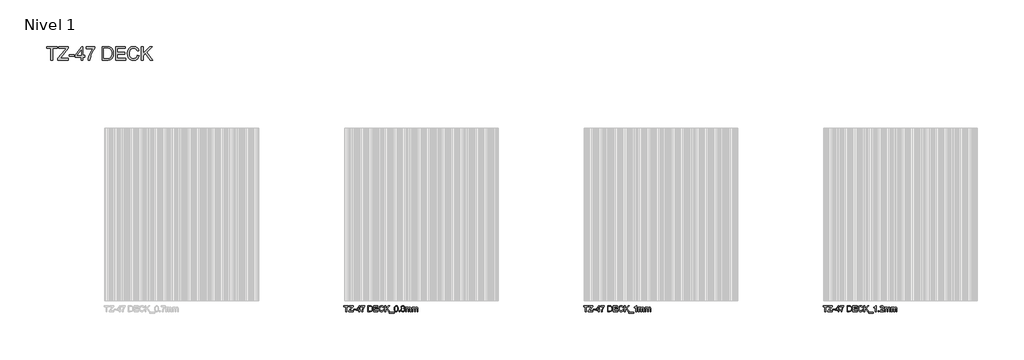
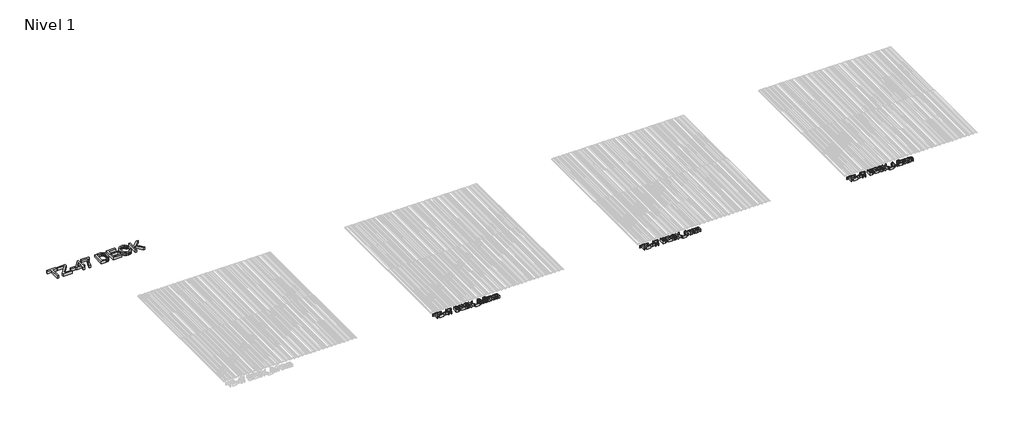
# One storey, part 4 of 4: 4 proxies.
"""IFC4 building model written with IfcOpenShell, lengths in millimetres."""

from ifc_helpers import new_model, si_unit, origin, origin_with_axes, place, context, project, spatial, polyline, outline, extrude, element, save

model = new_model("IFC4")

# Units and contexts
model_context = context("Model", 3, world=origin())
ifc_project = project(units=[si_unit("LENGTHUNIT", "METRE", prefix="MILLI")], contexts=[model_context])

# Site, building, storey
site = spatial("IfcSite", under=ifc_project)
building = spatial("IfcBuilding", under=site)
storey = spatial("IfcBuildingStorey", under=building, Name="Nivel 1", Elevation=0.0)

# Proxies
placement = place(None, origin())
element("IfcBuildingElementProxy", 1, Name="Texto de modelo 1", ObjectType="Texto de modelo 1", at=placement, inside=storey, context=model_context, shape_type="SweptSolid", body=[
    extrude(outline(polyline([(395.0481544, -3789.0115797), (395.0481544, -3525.3137656), (296.1614741, -3525.3137656), (296.1614741, -3487.6426493), (531.605951, -3487.6426493), (531.605951, -3525.3137656), (432.7192707, -3525.3137656), (432.7192707, -3789.0115797), (395.0481544, -3789.0115797)])), origin_with_axes(), (0.0, 0.0, 1.0), 150.0),
    extrude(outline(polyline([(550.4415092, -3789.0115797), (550.4415092, -3749.9425118), (704.5840652, -3561.2190483), (733.867472, -3525.3137656), (569.2770674, -3525.3137656), (569.2770674, -3487.6426493), (781.1770966, -3487.6426493), (781.1770966, -3525.3137656), (612.4664136, -3731.8427177), (596.5739114, -3751.3404634), (785.8859861, -3751.3404634), (785.8859861, -3789.0115797), (550.4415092, -3789.0115797)])), origin_with_axes(), (0.0, 0.0, 1.0), 150.0),
    extrude(outline(polyline([(804.7215443, -3699.5426785), (804.7215443, -3661.8715622), (922.4437827, -3661.8715622), (922.4437827, -3699.5426785), (804.7215443, -3699.5426785)])), origin_with_axes(), (0.0, 0.0, 1.0), 150.0),
    extrude(outline(polyline([(1077.8371375, -3789.0115797), (1077.8371375, -3718.3782367), (941.2793409, -3718.3782367), (941.2793409, -3680.7071204), (1087.2549166, -3492.3515388), (1115.5082538, -3492.3515388), (1115.5082538, -3680.7071204), (1153.1793701, -3680.7071204), (1153.1793701, -3718.3782367), (1115.5082538, -3718.3782367), (1115.5082538, -3789.0115797), (1077.8371375, -3789.0115797)]), holes=[polyline([(1077.8371375, -3680.7071204), (1077.8371375, -3564.3092571), (987.6324723, -3680.7071204), (1077.8371375, -3680.7071204)])]), origin_with_axes(), (0.0, 0.0, 1.0), 150.0),
    extrude(outline(polyline([(1186.1415969, -3530.0226551), (1186.1415969, -3492.3515388), (1383.9149575, -3492.3515388), (1383.9149575, -3522.812168), (1355.7259996, -3558.4875245), (1327.8129532, -3603.8565716), (1303.1924507, -3654.7806367), (1284.8811244, -3707.1210476), (1275.9048037, -3746.282086), (1270.9016086, -3789.0115797), (1233.2304922, -3789.0115797), (1237.3047853, -3750.1816351), (1248.2032895, -3704.0308388), (1265.631699, -3655.1117305), (1289.2957083, -3607.9768499), (1316.9236462, -3565.3669178), (1346.2438412, -3530.0226551), (1186.1415969, -3530.0226551)])), origin_with_axes(), (0.0, 0.0, 1.0), 150.0),
    extrude(outline(polyline([(1548.7260913, -3789.0115797), (1548.7260913, -3487.6426493), (1652.6895432, -3487.6426493), (1706.4738908, -3491.9836568), (1730.4965851, -3500.3529722), (1750.7668831, -3513.5415417), (1771.6073981, -3536.4973782), (1786.4514366, -3565.0450211), (1795.3357868, -3598.6326472), (1798.2972368, -3636.7084337), (1796.29228, -3669.0544582), (1790.2774093, -3697.5193275), (1781.1171477, -3721.753554), (1769.6760176, -3741.4076496), (1756.5058422, -3756.9230727), (1742.1584444, -3768.7412818), (1725.686528, -3777.5060703), (1706.142797, -3783.8612318), (1657.6927383, -3789.0115797), (1548.7260913, -3789.0115797)]), holes=[polyline([(1586.3972076, -3751.3404634), (1653.0574251, -3751.3404634), (1680.6301807, -3749.9793), (1701.5442721, -3745.8958099), (1717.3264097, -3739.3291163), (1729.5033037, -3730.5183425), (1742.5907057, -3714.2119731), (1752.422352, -3693.1047436), (1758.5751784, -3667.1046836), (1760.6261205, -3636.1198225), (1756.6070097, -3595.0641919), (1744.5496773, -3564.7507155), (1726.7349917, -3543.9285945), (1705.4438213, -3531.3470303), (1683.7755717, -3526.8220818), (1652.0273556, -3525.3137656), (1586.3972076, -3525.3137656), (1586.3972076, -3751.3404634)])]), origin_with_axes(), (0.0, 0.0, 1.0), 150.0),
    extrude(outline(polyline([(1850.0950218, -3789.0115797), (1850.0950218, -3487.6426493), (2066.7039405, -3487.6426493), (2066.7039405, -3525.3137656), (1887.7661381, -3525.3137656), (1887.7661381, -3614.7826668), (2057.2861614, -3614.7826668), (2057.2861614, -3652.4537831), (1887.7661381, -3652.4537831), (1887.7661381, -3751.3404634), (2071.4128301, -3751.3404634), (2071.4128301, -3789.0115797), (1850.0950218, -3789.0115797)])), origin_with_axes(), (0.0, 0.0, 1.0), 150.0),
    extrude(outline(polyline([(2339.8195337, -3681.8843427), (2377.49065, -3691.5964274), (2370.0364411, -3715.0236127), (2360.1082258, -3735.4939465), (2347.706004, -3753.0074287), (2332.8297758, -3767.5640594), (2315.8152336, -3779.0074887), (2296.9980695, -3787.1813668), (2276.3782837, -3792.0856937), (2253.9558761, -3793.7204693), (2210.2606921, -3788.7724564), (2175.5602229, -3773.9284179), (2148.9623546, -3749.7033885), (2129.5749735, -3716.6124031), (2117.7383703, -3677.7088821), (2113.7928359, -3636.0462461), (2118.2534051, -3592.1027418), (2131.6351127, -3554.155714), (2153.2389828, -3523.4099763), (2182.3660398, -3501.0703421), (2216.9101592, -3487.4679053), (2254.7652165, -3482.9337597), (2296.0691675, -3488.8014776), (2314.0379037, -3496.1361248), (2330.2178137, -3506.404631), (2344.342183, -3519.3356832), (2356.1442973, -3534.6579683), (2372.7817605, -3572.4762374), (2335.1106442, -3581.4525581), (2322.0508334, -3553.9809701), (2304.2085566, -3535.1362149), (2281.3630847, -3524.2377108), (2253.2936885, -3520.6048761), (2220.938467, -3524.6331839), (2194.3589928, -3536.7181074), (2174.1898625, -3555.5904538), (2161.0656723, -3579.9810301), (2153.8643822, -3607.5537856), (2151.4639522, -3635.9726697), (2154.3058406, -3670.7743065), (2162.8315059, -3700.8670537), (2177.3628447, -3725.1012801), (2198.2217538, -3742.3273545), (2223.2285324, -3752.6188534), (2250.2034797, -3756.049353), (2281.6481933, -3751.3772516), (2307.8505884, -3737.3609476), (2327.6334427, -3714.1475937), (2339.8195337, -3681.8843427)])), origin_with_axes(), (0.0, 0.0, 1.0), 150.0),
    extrude(outline(polyline([(2429.288435, -3789.0115797), (2429.288435, -3487.6426493), (2466.9595513, -3487.6426493), (2466.9595513, -3635.1633294), (2621.4699892, -3487.6426493), (2674.150691, -3487.6426493), (2544.4354995, -3611.5453053), (2678.8595805, -3789.0115797), (2632.8007547, -3789.0115797), (2517.7272666, -3637.0027393), (2466.9595513, -3685.4160099), (2466.9595513, -3789.0115797), (2429.288435, -3789.0115797)])), origin_with_axes(), (0.0, 0.0, 1.0), 150.0),
    extrude(outline(polyline([(2669.4418014, -3873.7715914), (2669.4418014, -3836.1004751), (2914.3040574, -3836.1004751), (2914.3040574, -3873.7715914), (2669.4418014, -3873.7715914)])), origin_with_axes(), (0.0, 0.0, 1.0), 150.0),
    extrude(outline(polyline([(2923.7218365, -3640.7551357), (2926.4901485, -3592.5166091), (2934.7950845, -3554.0453494), (2948.5538712, -3524.7527455), (2967.6837349, -3504.0501863), (2992.3226315, -3491.7445335), (3022.6085168, -3487.6426493), (3045.8218707, -3490.0706705), (3066.6072034, -3497.354734), (3083.9896277, -3509.2097313), (3096.9942562, -3525.3505538), (3106.8167055, -3545.6392458), (3114.652592, -3569.9378516), (3119.7845458, -3600.793954), (3121.4951971, -3640.7551357), (3118.7544762, -3688.7177508), (3110.5323136, -3727.0970399), (3096.8563005, -3756.417235), (3077.7540279, -3777.2025677), (3053.0599489, -3789.5909939), (3022.6085168, -3793.7204693), (3001.8599723, -3791.9270445), (2983.4658725, -3786.5467704), (2967.4262175, -3777.5796467), (2953.7410073, -3765.0256736), (2940.6076201, -3742.3319531), (2931.2266292, -3714.0556232), (2925.5980347, -3680.1966841), (2923.7218365, -3640.7551357)]), holes=[polyline([(2961.3929528, -3640.6815593), (2965.8075367, -3699.9381517), (2971.3257667, -3720.2061503), (2979.0512886, -3734.2339507), (2998.7697635, -3750.5955024), (3022.6085168, -3756.049353), (3046.4472701, -3750.5771083), (3066.165745, -3734.1603743), (3073.8912669, -3720.1095813), (3079.4094968, -3699.8461812), (3083.8240808, -3640.6815593), (3079.5566496, -3582.7585391), (3074.2223607, -3562.5572191), (3066.7543562, -3548.1960257), (3047.0726695, -3531.0343306), (3022.1670584, -3525.3137656), (2998.5858225, -3530.3537489), (2979.6398998, -3545.4736989), (2971.6568605, -3561.1086837), (2965.9546895, -3582.188322), (2961.3929528, -3640.6815593)])]), origin_with_axes(), (0.0, 0.0, 1.0), 150.0),
    extrude(outline(polyline([(3173.292982, -3789.0115797), (3173.292982, -3751.3404634), (3210.9640983, -3751.3404634), (3210.9640983, -3789.0115797), (3173.292982, -3789.0115797)])), origin_with_axes(), (0.0, 0.0, 1.0), 150.0),
    extrude(outline(polyline([(3327.067656, -3623.0232235), (3306.8985256, -3613.0904096), (3292.7442658, -3599.6259286), (3284.3841475, -3582.9056919), (3281.5974414, -3563.2056111), (3283.1149546, -3547.8419393), (3287.6674943, -3533.7566574), (3295.2550605, -3520.9497654), (3305.8776531, -3509.4212634), (3319.0248359, -3499.8931197), (3334.1861726, -3493.0873028), (3370.5513078, -3487.6426493), (3407.1371722, -3493.2160615), (3422.4640559, -3500.1828268), (3435.8135738, -3509.9362982), (3446.6293044, -3521.6901279), (3454.3548263, -3534.6579683), (3458.9901395, -3548.8398192), (3460.5352438, -3564.2356807), (3457.7853259, -3583.3011651), (3449.5355722, -3599.7362932), (3435.6940121, -3613.1180008), (3416.1686752, -3623.0232235), (3439.354438, -3634.9701913), (3456.2310245, -3652.5641477), (3466.5225233, -3674.9589642), (3469.9530229, -3701.3085121), (3468.2515687, -3720.098085), (3463.147206, -3737.3241594), (3454.6399349, -3752.9867354), (3442.7297553, -3767.0858128), (3428.0420666, -3778.738475), (3411.2022683, -3787.0618052), (3392.2103603, -3792.0558032), (3371.0663426, -3793.7204693), (3349.9223249, -3792.0489055), (3330.9304169, -3787.034214), (3314.0906186, -3778.6763949), (3299.40293, -3766.9754482), (3287.4927504, -3752.7775025), (3278.9854792, -3736.9286863), (3273.8811165, -3719.4289996), (3272.1796623, -3700.2784425), (3275.7481177, -3672.9080221), (3286.4534837, -3650.393644), (3303.7439375, -3633.5078604), (3327.067656, -3623.0232235)]), holes=[polyline([(3309.8507786, -3698.9540673), (3316.1415607, -3727.3177691), (3324.851167, -3739.4854661), (3338.3984214, -3748.5445603), (3354.6220174, -3754.1731548), (3371.3606482, -3756.049353), (3397.0020233, -3752.1038186), (3416.2422516, -3740.2672154), (3428.2719929, -3722.3421652), (3432.2819066, -3700.1312897), (3428.1432342, -3677.5433352), (3415.7272168, -3659.2228118), (3396.0455301, -3647.082706), (3370.1098494, -3643.036004), (3344.8271593, -3647.0275237), (3325.780069, -3659.0020826), (3313.8331012, -3676.9731181), (3309.8507786, -3698.9540673)]), polyline([(3319.2685577, -3564.3092571), (3322.6070868, -3580.7535823), (3332.6226741, -3593.8869695), (3349.0210141, -3602.4954082), (3371.507801, -3605.3648877), (3393.4703561, -3602.5138023), (3409.6203757, -3593.9605459), (3419.5531896, -3581.2686171), (3422.8641275, -3566.0015143), (3419.442825, -3550.1549973), (3409.1789173, -3537.0492012), (3392.8081685, -3528.2476245), (3371.0663426, -3525.3137656), (3349.186561, -3528.1832452), (3332.8434033, -3536.7916838), (3322.6622691, -3549.4100363), (3319.2685577, -3564.3092571)])]), origin_with_axes(), (0.0, 0.0, 1.0), 150.0),
    extrude(outline(polyline([(3512.3330288, -3789.0115797), (3512.3330288, -3567.6937714), (3550.0041451, -3567.6937714), (3550.0041451, -3604.114089), (3561.3349105, -3587.3846552), (3575.9030375, -3574.2788591), (3593.2118854, -3565.8083762), (3612.7648135, -3562.9848819), (3633.7156931, -3565.8635585), (3650.5095062, -3574.4995883), (3663.0542822, -3588.3227543), (3671.2580507, -3606.7628393), (3684.9892462, -3587.6099829), (3700.6518221, -3573.9293713), (3718.2457785, -3565.7210042), (3737.7711154, -3562.9848819), (3766.088832, -3567.5374216), (3787.0305146, -3581.1950407), (3799.9707637, -3604.3256211), (3804.2841801, -3637.2970449), (3804.2841801, -3789.0115797), (3766.6130638, -3789.0115797), (3766.6130638, -3653.4838527), (3763.1181849, -3622.0299421), (3758.2069602, -3613.3571241), (3750.4630442, -3606.5421101), (3740.5026392, -3602.1275262), (3728.9419475, -3600.6559982), (3708.5336938, -3604.4267887), (3691.8962306, -3615.73916), (3680.8321796, -3635.3656644), (3677.1441626, -3664.0788542), (3677.1441626, -3789.0115797), (3639.4730463, -3789.0115797), (3639.4730463, -3649.289998), (3637.2933455, -3627.9896304), (3630.754243, -3612.796104), (3619.2487336, -3603.6910247), (3602.169812, -3600.6559982), (3587.6568673, -3602.6793492), (3574.2843568, -3608.7494021), (3563.2478969, -3618.7190042), (3555.7431042, -3632.4410026), (3551.4388849, -3651.4788958), (3550.0041451, -3677.3961824), (3550.0041451, -3789.0115797), (3512.3330288, -3789.0115797)])), origin_with_axes(), (0.0, 0.0, 1.0), 150.0),
    extrude(outline(polyline([(3860.7908546, -3789.0115797), (3860.7908546, -3567.6937714), (3898.4619709, -3567.6937714), (3898.4619709, -3604.114089), (3909.7927364, -3587.3846552), (3924.3608634, -3574.2788591), (3941.6697112, -3565.8083762), (3961.2226393, -3562.9848819), (3982.1735189, -3565.8635585), (3998.967332, -3574.4995883), (4011.512108, -3588.3227543), (4019.7158765, -3606.7628393), (4033.447072, -3587.6099829), (4049.1096479, -3573.9293713), (4066.7036044, -3565.7210042), (4086.2289412, -3562.9848819), (4114.5466578, -3567.5374216), (4135.4883404, -3581.1950407), (4148.4285896, -3604.3256211), (4152.742006, -3637.2970449), (4152.742006, -3789.0115797), (4115.0708897, -3789.0115797), (4115.0708897, -3653.4838527), (4111.5760107, -3622.0299421), (4106.6647861, -3613.3571241), (4098.9208701, -3606.5421101), (4088.9604651, -3602.1275262), (4077.3997734, -3600.6559982), (4056.9915197, -3604.4267887), (4040.3540564, -3615.73916), (4029.2900054, -3635.3656644), (4025.6019884, -3664.0788542), (4025.6019884, -3789.0115797), (3987.9308721, -3789.0115797), (3987.9308721, -3649.289998), (3985.7511713, -3627.9896304), (3979.2120688, -3612.796104), (3967.7065594, -3603.6910247), (3950.6276378, -3600.6559982), (3936.1146931, -3602.6793492), (3922.7421826, -3608.7494021), (3911.7057227, -3618.7190042), (3904.20093, -3632.4410026), (3899.8967107, -3651.4788958), (3898.4619709, -3677.3961824), (3898.4619709, -3789.0115797), (3860.7908546, -3789.0115797)])), origin_with_axes(), (0.0, 0.0, 1.0), 150.0),
])
element("IfcBuildingElementProxy", 2, Name="Texto de modelo 1", ObjectType="Texto de modelo 1", at=placement, inside=storey, context=model_context, shape_type="SweptSolid", body=[
    extrude(outline(polyline([(12895.0481544, -3789.0115797), (12895.0481544, -3525.3137656), (12796.1614741, -3525.3137656), (12796.1614741, -3487.6426493), (13031.605951, -3487.6426493), (13031.605951, -3525.3137656), (12932.7192707, -3525.3137656), (12932.7192707, -3789.0115797), (12895.0481544, -3789.0115797)])), origin_with_axes(), (0.0, 0.0, 1.0), 150.0),
    extrude(outline(polyline([(13050.4415092, -3789.0115797), (13050.4415092, -3749.9425118), (13204.5840652, -3561.2190483), (13233.867472, -3525.3137656), (13069.2770674, -3525.3137656), (13069.2770674, -3487.6426493), (13281.1770966, -3487.6426493), (13281.1770966, -3525.3137656), (13112.4664136, -3731.8427177), (13096.5739114, -3751.3404634), (13285.8859861, -3751.3404634), (13285.8859861, -3789.0115797), (13050.4415092, -3789.0115797)])), origin_with_axes(), (0.0, 0.0, 1.0), 150.0),
    extrude(outline(polyline([(13304.7215443, -3699.5426785), (13304.7215443, -3661.8715622), (13422.4437827, -3661.8715622), (13422.4437827, -3699.5426785), (13304.7215443, -3699.5426785)])), origin_with_axes(), (0.0, 0.0, 1.0), 150.0),
    extrude(outline(polyline([(13577.8371375, -3789.0115797), (13577.8371375, -3718.3782367), (13441.2793409, -3718.3782367), (13441.2793409, -3680.7071204), (13587.2549166, -3492.3515388), (13615.5082538, -3492.3515388), (13615.5082538, -3680.7071204), (13653.1793701, -3680.7071204), (13653.1793701, -3718.3782367), (13615.5082538, -3718.3782367), (13615.5082538, -3789.0115797), (13577.8371375, -3789.0115797)]), holes=[polyline([(13577.8371375, -3680.7071204), (13577.8371375, -3564.3092571), (13487.6324723, -3680.7071204), (13577.8371375, -3680.7071204)])]), origin_with_axes(), (0.0, 0.0, 1.0), 150.0),
    extrude(outline(polyline([(13686.1415969, -3530.0226551), (13686.1415969, -3492.3515388), (13883.9149575, -3492.3515388), (13883.9149575, -3522.812168), (13855.7259996, -3558.4875245), (13827.8129532, -3603.8565716), (13803.1924507, -3654.7806367), (13784.8811244, -3707.1210476), (13775.9048037, -3746.282086), (13770.9016086, -3789.0115797), (13733.2304922, -3789.0115797), (13737.3047853, -3750.1816351), (13748.2032895, -3704.0308388), (13765.631699, -3655.1117305), (13789.2957083, -3607.9768499), (13816.9236462, -3565.3669178), (13846.2438412, -3530.0226551), (13686.1415969, -3530.0226551)])), origin_with_axes(), (0.0, 0.0, 1.0), 150.0),
    extrude(outline(polyline([(14048.7260913, -3789.0115797), (14048.7260913, -3487.6426493), (14152.6895432, -3487.6426493), (14206.4738908, -3491.9836568), (14230.4965851, -3500.3529722), (14250.7668831, -3513.5415417), (14271.6073981, -3536.4973782), (14286.4514366, -3565.0450211), (14295.3357868, -3598.6326472), (14298.2972368, -3636.7084337), (14296.29228, -3669.0544582), (14290.2774093, -3697.5193275), (14281.1171477, -3721.753554), (14269.6760176, -3741.4076496), (14256.5058422, -3756.9230727), (14242.1584444, -3768.7412818), (14225.686528, -3777.5060703), (14206.142797, -3783.8612318), (14157.6927383, -3789.0115797), (14048.7260913, -3789.0115797)]), holes=[polyline([(14086.3972076, -3751.3404634), (14153.0574251, -3751.3404634), (14180.6301807, -3749.9793), (14201.5442721, -3745.8958099), (14217.3264097, -3739.3291163), (14229.5033037, -3730.5183425), (14242.5907057, -3714.2119731), (14252.422352, -3693.1047436), (14258.5751784, -3667.1046836), (14260.6261205, -3636.1198225), (14256.6070097, -3595.0641919), (14244.5496773, -3564.7507155), (14226.7349917, -3543.9285945), (14205.4438213, -3531.3470303), (14183.7755717, -3526.8220818), (14152.0273556, -3525.3137656), (14086.3972076, -3525.3137656), (14086.3972076, -3751.3404634)])]), origin_with_axes(), (0.0, 0.0, 1.0), 150.0),
    extrude(outline(polyline([(14350.0950218, -3789.0115797), (14350.0950218, -3487.6426493), (14566.7039405, -3487.6426493), (14566.7039405, -3525.3137656), (14387.7661381, -3525.3137656), (14387.7661381, -3614.7826668), (14557.2861614, -3614.7826668), (14557.2861614, -3652.4537831), (14387.7661381, -3652.4537831), (14387.7661381, -3751.3404634), (14571.4128301, -3751.3404634), (14571.4128301, -3789.0115797), (14350.0950218, -3789.0115797)])), origin_with_axes(), (0.0, 0.0, 1.0), 150.0),
    extrude(outline(polyline([(14839.8195337, -3681.8843427), (14877.49065, -3691.5964274), (14870.0364411, -3715.0236127), (14860.1082258, -3735.4939465), (14847.706004, -3753.0074287), (14832.8297758, -3767.5640594), (14815.8152336, -3779.0074887), (14796.9980695, -3787.1813668), (14776.3782837, -3792.0856937), (14753.9558761, -3793.7204693), (14710.2606921, -3788.7724564), (14675.5602229, -3773.9284179), (14648.9623546, -3749.7033885), (14629.5749735, -3716.6124031), (14617.7383703, -3677.7088821), (14613.7928359, -3636.0462461), (14618.2534051, -3592.1027418), (14631.6351127, -3554.155714), (14653.2389828, -3523.4099763), (14682.3660398, -3501.0703421), (14716.9101592, -3487.4679053), (14754.7652165, -3482.9337597), (14796.0691675, -3488.8014776), (14814.0379037, -3496.1361248), (14830.2178137, -3506.404631), (14844.342183, -3519.3356832), (14856.1442973, -3534.6579683), (14872.7817605, -3572.4762374), (14835.1106442, -3581.4525581), (14822.0508334, -3553.9809701), (14804.2085566, -3535.1362149), (14781.3630847, -3524.2377108), (14753.2936885, -3520.6048761), (14720.938467, -3524.6331839), (14694.3589928, -3536.7181074), (14674.1898625, -3555.5904538), (14661.0656723, -3579.9810301), (14653.8643822, -3607.5537856), (14651.4639522, -3635.9726697), (14654.3058406, -3670.7743065), (14662.8315059, -3700.8670537), (14677.3628447, -3725.1012801), (14698.2217538, -3742.3273545), (14723.2285324, -3752.6188534), (14750.2034797, -3756.049353), (14781.6481933, -3751.3772516), (14807.8505884, -3737.3609476), (14827.6334427, -3714.1475937), (14839.8195337, -3681.8843427)])), origin_with_axes(), (0.0, 0.0, 1.0), 150.0),
    extrude(outline(polyline([(14929.288435, -3789.0115797), (14929.288435, -3487.6426493), (14966.9595513, -3487.6426493), (14966.9595513, -3635.1633294), (15121.4699892, -3487.6426493), (15174.150691, -3487.6426493), (15044.4354995, -3611.5453053), (15178.8595805, -3789.0115797), (15132.8007547, -3789.0115797), (15017.7272666, -3637.0027393), (14966.9595513, -3685.4160099), (14966.9595513, -3789.0115797), (14929.288435, -3789.0115797)])), origin_with_axes(), (0.0, 0.0, 1.0), 150.0),
    extrude(outline(polyline([(15169.4418014, -3873.7715914), (15169.4418014, -3836.1004751), (15414.3040574, -3836.1004751), (15414.3040574, -3873.7715914), (15169.4418014, -3873.7715914)])), origin_with_axes(), (0.0, 0.0, 1.0), 150.0),
    extrude(outline(polyline([(15564.9885226, -3789.0115797), (15527.3174063, -3789.0115797), (15527.3174063, -3554.155714), (15491.6328528, -3579.5763599), (15451.9751737, -3598.595859), (15451.9751737, -3562.9848819), (15481.5620832, -3546.8900446), (15507.1942612, -3527.7417868), (15527.4001798, -3507.3795183), (15540.708311, -3487.6426493), (15564.9885226, -3487.6426493), (15564.9885226, -3789.0115797)])), origin_with_axes(), (0.0, 0.0, 1.0), 150.0),
    extrude(outline(polyline([(15663.8752029, -3789.0115797), (15663.8752029, -3567.6937714), (15701.5463192, -3567.6937714), (15701.5463192, -3604.114089), (15712.8770847, -3587.3846552), (15727.4452117, -3574.2788591), (15744.7540596, -3565.8083762), (15764.3069876, -3562.9848819), (15785.2578672, -3565.8635585), (15802.0516803, -3574.4995883), (15814.5964564, -3588.3227543), (15822.8002249, -3606.7628393), (15836.5314203, -3587.609983), (15852.1939963, -3573.9293713), (15869.7879527, -3565.7210042), (15889.3132896, -3562.9848819), (15917.6310062, -3567.5374216), (15938.5726887, -3581.1950407), (15951.5129379, -3604.3256211), (15955.8263543, -3637.2970449), (15955.8263543, -3789.0115797), (15918.155238, -3789.0115797), (15918.155238, -3653.4838527), (15914.660359, -3622.0299421), (15909.7491344, -3613.3571241), (15902.0052184, -3606.5421101), (15892.0448134, -3602.1275262), (15880.4841217, -3600.6559982), (15860.075868, -3604.4267887), (15843.4384048, -3615.73916), (15832.3743538, -3635.3656644), (15828.6863368, -3664.0788542), (15828.6863368, -3789.0115797), (15791.0152205, -3789.0115797), (15791.0152205, -3649.289998), (15788.8355196, -3627.9896304), (15782.2964172, -3612.796104), (15770.7909078, -3603.6910247), (15753.7119862, -3600.6559982), (15739.1990414, -3602.6793492), (15725.8265309, -3608.7494021), (15714.7900711, -3618.7190042), (15707.2852784, -3632.4410026), (15702.981059, -3651.4788958), (15701.5463192, -3677.3961824), (15701.5463192, -3789.0115797), (15663.8752029, -3789.0115797)])), origin_with_axes(), (0.0, 0.0, 1.0), 150.0),
    extrude(outline(polyline([(16012.3330288, -3789.0115797), (16012.3330288, -3567.6937714), (16050.0041451, -3567.6937714), (16050.0041451, -3604.114089), (16061.3349105, -3587.3846552), (16075.9030375, -3574.2788591), (16093.2118854, -3565.8083762), (16112.7648135, -3562.9848819), (16133.7156931, -3565.8635585), (16150.5095062, -3574.4995883), (16163.0542822, -3588.3227543), (16171.2580507, -3606.7628393), (16184.9892462, -3587.609983), (16200.6518221, -3573.9293713), (16218.2457785, -3565.7210042), (16237.7711154, -3562.9848819), (16266.088832, -3567.5374216), (16287.0305146, -3581.1950407), (16299.9707637, -3604.3256211), (16304.2841801, -3637.2970449), (16304.2841801, -3789.0115797), (16266.6130638, -3789.0115797), (16266.6130638, -3653.4838527), (16263.1181849, -3622.0299421), (16258.2069602, -3613.3571241), (16250.4630442, -3606.5421101), (16240.5026392, -3602.1275262), (16228.9419475, -3600.6559982), (16208.5336938, -3604.4267887), (16191.8962306, -3615.73916), (16180.8321796, -3635.3656644), (16177.1441626, -3664.0788542), (16177.1441626, -3789.0115797), (16139.4730463, -3789.0115797), (16139.4730463, -3649.289998), (16137.2933455, -3627.9896304), (16130.754243, -3612.796104), (16119.2487336, -3603.6910247), (16102.169812, -3600.6559982), (16087.6568673, -3602.6793492), (16074.2843568, -3608.7494021), (16063.2478969, -3618.7190042), (16055.7431042, -3632.4410026), (16051.4388849, -3651.4788958), (16050.0041451, -3677.3961824), (16050.0041451, -3789.0115797), (16012.3330288, -3789.0115797)])), origin_with_axes(), (0.0, 0.0, 1.0), 150.0),
])
element("IfcBuildingElementProxy", 3, Name="Texto de modelo 1", ObjectType="Texto de modelo 1", at=placement, inside=storey, context=model_context, shape_type="SweptSolid", body=[
    extrude(outline(polyline([(25395.0481544, -3789.0115797), (25395.0481544, -3525.3137656), (25296.1614741, -3525.3137656), (25296.1614741, -3487.6426493), (25531.605951, -3487.6426493), (25531.605951, -3525.3137656), (25432.7192707, -3525.3137656), (25432.7192707, -3789.0115797), (25395.0481544, -3789.0115797)])), origin_with_axes(), (0.0, 0.0, 1.0), 150.0),
    extrude(outline(polyline([(25550.4415092, -3789.0115797), (25550.4415092, -3749.9425118), (25704.5840652, -3561.2190483), (25733.867472, -3525.3137656), (25569.2770674, -3525.3137656), (25569.2770674, -3487.6426493), (25781.1770966, -3487.6426493), (25781.1770966, -3525.3137656), (25612.4664136, -3731.8427177), (25596.5739114, -3751.3404634), (25785.8859861, -3751.3404634), (25785.8859861, -3789.0115797), (25550.4415092, -3789.0115797)])), origin_with_axes(), (0.0, 0.0, 1.0), 150.0),
    extrude(outline(polyline([(25804.7215443, -3699.5426785), (25804.7215443, -3661.8715622), (25922.4437827, -3661.8715622), (25922.4437827, -3699.5426785), (25804.7215443, -3699.5426785)])), origin_with_axes(), (0.0, 0.0, 1.0), 150.0),
    extrude(outline(polyline([(26077.8371375, -3789.0115797), (26077.8371375, -3718.3782367), (25941.2793409, -3718.3782367), (25941.2793409, -3680.7071204), (26087.2549166, -3492.3515388), (26115.5082538, -3492.3515388), (26115.5082538, -3680.7071204), (26153.1793701, -3680.7071204), (26153.1793701, -3718.3782367), (26115.5082538, -3718.3782367), (26115.5082538, -3789.0115797), (26077.8371375, -3789.0115797)]), holes=[polyline([(26077.8371375, -3680.7071204), (26077.8371375, -3564.3092571), (25987.6324723, -3680.7071204), (26077.8371375, -3680.7071204)])]), origin_with_axes(), (0.0, 0.0, 1.0), 150.0),
    extrude(outline(polyline([(26186.1415969, -3530.0226551), (26186.1415969, -3492.3515388), (26383.9149575, -3492.3515388), (26383.9149575, -3522.812168), (26355.7259996, -3558.4875245), (26327.8129532, -3603.8565716), (26303.1924507, -3654.7806367), (26284.8811244, -3707.1210476), (26275.9048037, -3746.282086), (26270.9016086, -3789.0115797), (26233.2304922, -3789.0115797), (26237.3047853, -3750.1816351), (26248.2032895, -3704.0308388), (26265.631699, -3655.1117305), (26289.2957083, -3607.9768499), (26316.9236462, -3565.3669178), (26346.2438412, -3530.0226551), (26186.1415969, -3530.0226551)])), origin_with_axes(), (0.0, 0.0, 1.0), 150.0),
    extrude(outline(polyline([(26548.7260913, -3789.0115797), (26548.7260913, -3487.6426493), (26652.6895432, -3487.6426493), (26706.4738908, -3491.9836568), (26730.4965851, -3500.3529722), (26750.7668831, -3513.5415417), (26771.6073981, -3536.4973782), (26786.4514366, -3565.0450211), (26795.3357868, -3598.6326472), (26798.2972368, -3636.7084337), (26796.29228, -3669.0544582), (26790.2774093, -3697.5193275), (26781.1171477, -3721.753554), (26769.6760176, -3741.4076496), (26756.5058422, -3756.9230727), (26742.1584444, -3768.7412818), (26725.686528, -3777.5060703), (26706.142797, -3783.8612318), (26657.6927383, -3789.0115797), (26548.7260913, -3789.0115797)]), holes=[polyline([(26586.3972076, -3751.3404634), (26653.0574251, -3751.3404634), (26680.6301807, -3749.9793), (26701.5442721, -3745.8958099), (26717.3264097, -3739.3291163), (26729.5033037, -3730.5183425), (26742.5907057, -3714.2119731), (26752.422352, -3693.1047436), (26758.5751784, -3667.1046836), (26760.6261205, -3636.1198225), (26756.6070097, -3595.0641919), (26744.5496773, -3564.7507155), (26726.7349917, -3543.9285945), (26705.4438213, -3531.3470303), (26683.7755717, -3526.8220818), (26652.0273556, -3525.3137656), (26586.3972076, -3525.3137656), (26586.3972076, -3751.3404634)])]), origin_with_axes(), (0.0, 0.0, 1.0), 150.0),
    extrude(outline(polyline([(26850.0950218, -3789.0115797), (26850.0950218, -3487.6426493), (27066.7039405, -3487.6426493), (27066.7039405, -3525.3137656), (26887.7661381, -3525.3137656), (26887.7661381, -3614.7826668), (27057.2861614, -3614.7826668), (27057.2861614, -3652.4537831), (26887.7661381, -3652.4537831), (26887.7661381, -3751.3404634), (27071.4128301, -3751.3404634), (27071.4128301, -3789.0115797), (26850.0950218, -3789.0115797)])), origin_with_axes(), (0.0, 0.0, 1.0), 150.0),
    extrude(outline(polyline([(27339.8195337, -3681.8843427), (27377.49065, -3691.5964274), (27370.0364411, -3715.0236127), (27360.1082258, -3735.4939465), (27347.706004, -3753.0074287), (27332.8297758, -3767.5640594), (27315.8152336, -3779.0074887), (27296.9980695, -3787.1813668), (27276.3782837, -3792.0856937), (27253.9558761, -3793.7204693), (27210.2606921, -3788.7724564), (27175.5602229, -3773.9284179), (27148.9623546, -3749.7033885), (27129.5749735, -3716.6124031), (27117.7383703, -3677.7088821), (27113.7928359, -3636.0462461), (27118.2534051, -3592.1027418), (27131.6351127, -3554.155714), (27153.2389828, -3523.4099763), (27182.3660398, -3501.0703421), (27216.9101592, -3487.4679053), (27254.7652165, -3482.9337597), (27296.0691675, -3488.8014776), (27314.0379037, -3496.1361248), (27330.2178137, -3506.404631), (27344.342183, -3519.3356832), (27356.1442973, -3534.6579683), (27372.7817605, -3572.4762374), (27335.1106442, -3581.4525581), (27322.0508334, -3553.9809701), (27304.2085566, -3535.1362149), (27281.3630847, -3524.2377108), (27253.2936885, -3520.6048761), (27220.938467, -3524.6331839), (27194.3589928, -3536.7181074), (27174.1898625, -3555.5904538), (27161.0656723, -3579.9810301), (27153.8643822, -3607.5537856), (27151.4639522, -3635.9726697), (27154.3058406, -3670.7743065), (27162.8315059, -3700.8670537), (27177.3628447, -3725.1012801), (27198.2217538, -3742.3273545), (27223.2285324, -3752.6188534), (27250.2034797, -3756.049353), (27281.6481933, -3751.3772516), (27307.8505884, -3737.3609476), (27327.6334427, -3714.1475937), (27339.8195337, -3681.8843427)])), origin_with_axes(), (0.0, 0.0, 1.0), 150.0),
    extrude(outline(polyline([(27429.288435, -3789.0115797), (27429.288435, -3487.6426493), (27466.9595513, -3487.6426493), (27466.9595513, -3635.1633294), (27621.4699892, -3487.6426493), (27674.150691, -3487.6426493), (27544.4354995, -3611.5453053), (27678.8595805, -3789.0115797), (27632.8007547, -3789.0115797), (27517.7272666, -3637.0027393), (27466.9595513, -3685.4160099), (27466.9595513, -3789.0115797), (27429.288435, -3789.0115797)])), origin_with_axes(), (0.0, 0.0, 1.0), 150.0),
    extrude(outline(polyline([(27669.4418014, -3873.7715914), (27669.4418014, -3836.1004751), (27914.3040574, -3836.1004751), (27914.3040574, -3873.7715914), (27669.4418014, -3873.7715914)])), origin_with_axes(), (0.0, 0.0, 1.0), 150.0),
    extrude(outline(polyline([(28064.9885226, -3789.0115797), (28027.3174063, -3789.0115797), (28027.3174063, -3554.155714), (27991.6328528, -3579.5763599), (27951.9751737, -3598.595859), (27951.9751737, -3562.9848819), (27981.5620832, -3546.8900446), (28007.1942612, -3527.7417868), (28027.4001798, -3507.3795183), (28040.708311, -3487.6426493), (28064.9885226, -3487.6426493), (28064.9885226, -3789.0115797)])), origin_with_axes(), (0.0, 0.0, 1.0), 150.0),
    extrude(outline(polyline([(28173.292982, -3789.0115797), (28173.292982, -3751.3404634), (28210.9640983, -3751.3404634), (28210.9640983, -3789.0115797), (28173.292982, -3789.0115797)])), origin_with_axes(), (0.0, 0.0, 1.0), 150.0),
    extrude(outline(polyline([(28465.2441334, -3751.3404634), (28465.2441334, -3789.0115797), (28267.4707728, -3789.0115797), (28271.5174747, -3763.0391109), (28280.8064951, -3742.7412218), (28294.3997348, -3723.050338), (28314.0630275, -3702.4397492), (28341.5622066, -3679.3827452), (28382.2131671, -3643.2751273), (28406.6037434, -3616.6220768), (28418.7990315, -3594.9906155), (28422.8641275, -3573.9477654), (28419.0289577, -3555.0846161), (28407.5234483, -3539.403646), (28389.8375214, -3528.8362357), (28367.4610991, -3525.3137656), (28343.9626366, -3528.7534622), (28325.7064926, -3539.0725522), (28313.9250717, -3555.4616951), (28309.8507786, -3577.1115505), (28272.1796623, -3572.402661), (28281.3123328, -3535.9639494), (28289.8586914, -3521.428012), (28301.0583989, -3509.347687), (28314.6539379, -3499.851733), (28330.387791, -3493.0689087), (28368.2704395, -3487.6426493), (28388.4602632, -3489.1509655), (28406.4289994, -3493.675914), (28422.1766481, -3501.2174949), (28435.7032092, -3511.7757082), (28446.5672243, -3524.5688046), (28454.3272352, -3538.8150348), (28458.9832417, -3554.514399), (28460.5352438, -3571.666897), (28458.8613808, -3589.6839177), (28453.8397915, -3607.3882387), (28444.9278502, -3625.3960624), (28431.5829308, -3644.323591), (28410.3101545, -3666.9207426), (28377.6146421, -3695.937435), (28334.2781431, -3732.1738115), (28317.2819949, -3751.3404634), (28465.2441334, -3751.3404634)])), origin_with_axes(), (0.0, 0.0, 1.0), 150.0),
    extrude(outline(polyline([(28512.3330288, -3789.0115797), (28512.3330288, -3567.6937714), (28550.0041451, -3567.6937714), (28550.0041451, -3604.114089), (28561.3349105, -3587.3846552), (28575.9030375, -3574.2788591), (28593.2118854, -3565.8083762), (28612.7648135, -3562.9848819), (28633.7156931, -3565.8635585), (28650.5095062, -3574.4995883), (28663.0542822, -3588.3227543), (28671.2580507, -3606.7628393), (28684.9892462, -3587.609983), (28700.6518221, -3573.9293713), (28718.2457785, -3565.7210042), (28737.7711154, -3562.9848819), (28766.088832, -3567.5374216), (28787.0305146, -3581.1950407), (28799.9707637, -3604.3256211), (28804.2841801, -3637.2970449), (28804.2841801, -3789.0115797), (28766.6130638, -3789.0115797), (28766.6130638, -3653.4838527), (28763.1181849, -3622.0299421), (28758.2069602, -3613.3571241), (28750.4630442, -3606.5421101), (28740.5026392, -3602.1275262), (28728.9419475, -3600.6559982), (28708.5336938, -3604.4267887), (28691.8962306, -3615.73916), (28680.8321796, -3635.3656644), (28677.1441626, -3664.0788542), (28677.1441626, -3789.0115797), (28639.4730463, -3789.0115797), (28639.4730463, -3649.289998), (28637.2933455, -3627.9896304), (28630.754243, -3612.796104), (28619.2487336, -3603.6910247), (28602.169812, -3600.6559982), (28587.6568673, -3602.6793492), (28574.2843568, -3608.7494021), (28563.2478969, -3618.7190042), (28555.7431042, -3632.4410026), (28551.4388849, -3651.4788958), (28550.0041451, -3677.3961824), (28550.0041451, -3789.0115797), (28512.3330288, -3789.0115797)])), origin_with_axes(), (0.0, 0.0, 1.0), 150.0),
    extrude(outline(polyline([(28860.7908546, -3789.0115797), (28860.7908546, -3567.6937714), (28898.4619709, -3567.6937714), (28898.4619709, -3604.114089), (28909.7927364, -3587.3846552), (28924.3608634, -3574.2788591), (28941.6697112, -3565.8083762), (28961.2226393, -3562.9848819), (28982.1735189, -3565.8635585), (28998.967332, -3574.4995883), (29011.512108, -3588.3227543), (29019.7158765, -3606.7628393), (29033.447072, -3587.609983), (29049.1096479, -3573.9293713), (29066.7036044, -3565.7210042), (29086.2289412, -3562.9848819), (29114.5466578, -3567.5374216), (29135.4883404, -3581.1950407), (29148.4285896, -3604.3256211), (29152.742006, -3637.2970449), (29152.742006, -3789.0115797), (29115.0708897, -3789.0115797), (29115.0708897, -3653.4838527), (29111.5760107, -3622.0299421), (29106.6647861, -3613.3571241), (29098.9208701, -3606.5421101), (29088.9604651, -3602.1275262), (29077.3997734, -3600.6559982), (29056.9915197, -3604.4267887), (29040.3540564, -3615.73916), (29029.2900054, -3635.3656644), (29025.6019884, -3664.0788542), (29025.6019884, -3789.0115797), (28987.9308721, -3789.0115797), (28987.9308721, -3649.289998), (28985.7511713, -3627.9896304), (28979.2120688, -3612.796104), (28967.7065594, -3603.6910247), (28950.6276378, -3600.6559982), (28936.1146931, -3602.6793492), (28922.7421826, -3608.7494021), (28911.7057227, -3618.7190042), (28904.20093, -3632.4410026), (28899.8967107, -3651.4788958), (28898.4619709, -3677.3961824), (28898.4619709, -3789.0115797), (28860.7908546, -3789.0115797)])), origin_with_axes(), (0.0, 0.0, 1.0), 150.0),
])
element("IfcBuildingElementProxy", 4, Name="Texto de modelo 2", ObjectType="Texto de modelo 2", at=placement, inside=storey, context=model_context, shape_type="SweptSolid", body=[
    extrude(outline(polyline([(-14990.4400847, 9329.0972393), (-14990.4400847, 9941.1292115), (-15219.9520743, 9941.1292115), (-15219.9520743, 10028.5623504), (-14673.4949563, 10028.5623504), (-14673.4949563, 9941.1292115), (-14903.0069458, 9941.1292115), (-14903.0069458, 9329.0972393), (-14990.4400847, 9329.0972393)])), origin_with_axes(), (0.0, 0.0, 1.0), 150.0),
    extrude(outline(polyline([(-14629.7783868, 9329.0972393), (-14629.7783868, 9419.7749673), (-14272.0197424, 9857.794501), (-14204.0541383, 9941.1292115), (-14586.0618174, 9941.1292115), (-14586.0618174, 10028.5623504), (-14094.2504112, 10028.5623504), (-14094.2504112, 9941.1292115), (-14485.8210898, 9461.7838583), (-14522.7069453, 9416.5303782), (-14083.3212688, 9416.5303782), (-14083.3212688, 9329.0972393), (-14629.7783868, 9329.0972393)])), origin_with_axes(), (0.0, 0.0, 1.0), 150.0),
    extrude(outline(polyline([(-14039.6046994, 9536.7509442), (-14039.6046994, 9624.184083), (-13766.3761404, 9624.184083), (-13766.3761404, 9536.7509442), (-14039.6046994, 9536.7509442)])), origin_with_axes(), (0.0, 0.0, 1.0), 150.0),
    extrude(outline(polyline([(-13405.7144425, 9329.0972393), (-13405.7144425, 9493.0343747), (-13722.6595709, 9493.0343747), (-13722.6595709, 9580.4675136), (-13383.8561578, 10017.633208), (-13318.2813036, 10017.633208), (-13318.2813036, 9580.4675136), (-13230.8481647, 9580.4675136), (-13230.8481647, 9493.0343747), (-13318.2813036, 9493.0343747), (-13318.2813036, 9329.0972393), (-13405.7144425, 9329.0972393)]), holes=[polyline([(-13405.7144425, 9580.4675136), (-13405.7144425, 9850.6222513), (-13615.0758258, 9580.4675136), (-13405.7144425, 9580.4675136)])]), origin_with_axes(), (0.0, 0.0, 1.0), 150.0),
    extrude(outline(polyline([(-13154.3441682, 9930.2000691), (-13154.3441682, 10017.633208), (-12695.3201891, 10017.633208), (-12695.3201891, 9946.9353184), (-12728.1129526, 9908.3471209), (-12760.7456214, 9864.1342574), (-12825.5306742, 9758.8345323), (-12855.9326879, 9700.1490935), (-12882.6738658, 9640.6418345), (-12905.754208, 9580.3127552), (-12925.1737143, 9519.1618557), (-12946.007392, 9428.2706678), (-12957.6196057, 9329.0972393), (-13045.0527446, 9329.0972393), (-13042.3044495, 9372.0346804), (-13035.5964749, 9419.2199718), (-13010.3014872, 9526.3341054), (-12991.885242, 9583.6213823), (-12969.8508529, 9639.8733792), (-12944.1983201, 9695.090096), (-12914.9276434, 9749.2715327), (-12850.8043159, 9848.1674635), (-12817.2697795, 9891.2916819), (-12782.753328, 9930.2000691), (-13154.3441682, 9930.2000691)])), origin_with_axes(), (0.0, 0.0, 1.0), 150.0),
    extrude(outline(polyline([(-12312.8002065, 9329.0972393), (-12312.8002065, 10028.5623504), (-12071.5052353, 10028.5623504), (-11999.3985109, 10026.0435246), (-11946.6739374, 10018.4870473), (-11917.707441, 10010.1727876), (-11890.9182346, 9999.0622044), (-11866.3063183, 9985.1552977), (-11843.8716921, 9968.4520674), (-11817.9469979, 9943.4345775), (-11795.5016987, 9915.1724984), (-11776.5357945, 9883.6658302), (-11761.0492851, 9848.9145728), (-11749.0208247, 9811.2389161), (-11740.4290673, 9770.9590496), (-11735.2740129, 9728.0749734), (-11733.5556614, 9682.5866875), (-11738.2090853, 9607.5128717), (-11752.169357, 9541.44706), (-11773.4299542, 9485.2003996), (-11799.9843548, 9439.5840379), (-11830.5517998, 9403.5733676), (-11863.8515305, 9376.1437818), (-11902.0821827, 9355.8010618), (-11947.4423927, 9341.0509888), (-12000.0175444, 9332.0856767), (-12059.8930215, 9329.0972393), (-12312.8002065, 9329.0972393)]), holes=[polyline([(-12225.3670676, 9416.5303782), (-12070.651396, 9416.5303782), (-12006.6561445, 9419.6895834), (-11958.1153833, 9429.1671991), (-11921.4856796, 9444.4082296), (-11893.2236005, 9464.8576796), (-11877.0913753, 9482.3880666), (-11862.8482693, 9502.7041042), (-11840.0294155, 9551.693131), (-11825.7489541, 9612.0382198), (-11820.9888003, 9683.9528303), (-11823.3208487, 9734.7135736), (-11830.316994, 9779.2412903), (-11841.9772362, 9817.5359805), (-11858.3015753, 9849.5976442), (-11877.9665605, 9876.1520448), (-11899.6487409, 9897.9249456), (-11923.3481165, 9914.9163466), (-11949.0646873, 9927.1262478), (-11999.3558189, 9937.6284706), (-12073.0421459, 9941.1292115), (-12225.3670676, 9941.1292115), (-12225.3670676, 9416.5303782)])]), origin_with_axes(), (0.0, 0.0, 1.0), 150.0),
    extrude(outline(polyline([(-11613.3350954, 9329.0972393), (-11613.3350954, 10028.5623504), (-11110.5945469, 10028.5623504), (-11110.5945469, 9941.1292115), (-11525.9019565, 9941.1292115), (-11525.9019565, 9733.4755066), (-11132.4528316, 9733.4755066), (-11132.4528316, 9646.0423678), (-11525.9019565, 9646.0423678), (-11525.9019565, 9416.5303782), (-11099.6654045, 9416.5303782), (-11099.6654045, 9329.0972393), (-11613.3350954, 9329.0972393)])), origin_with_axes(), (0.0, 0.0, 1.0), 150.0),
    extrude(outline(polyline([(-10476.70429, 9577.735228), (-10389.2711511, 9555.1938719), (-10406.5720688, 9500.8203214), (-10429.6150555, 9453.3095038), (-10458.4001111, 9412.6614191), (-10492.9272357, 9378.8760674), (-10532.4173008, 9352.3163303), (-10576.0911783, 9333.3450896), (-10623.9488681, 9321.9623451), (-10675.9903702, 9318.168097), (-10729.3072947, 9321.0391314), (-10777.4051267, 9329.6522348), (-10820.2838664, 9344.0074072), (-10857.9435137, 9364.1046484), (-10890.9017086, 9389.6451149), (-10919.6760912, 9420.3299629), (-10944.2666616, 9456.1591922), (-10964.6734196, 9497.1328031), (-10980.6989149, 9541.479079), (-10992.1456973, 9587.4263035), (-10999.0137668, 9634.9744765), (-11001.3031232, 9684.1235982), (-10998.714923, 9736.8588447), (-10990.9503224, 9786.1146962), (-10978.0093213, 9831.8911528), (-10959.8919198, 9874.1882145), (-10937.0036915, 9912.3068004), (-10909.75021, 9945.5478296), (-10878.1314754, 9973.9113021), (-10842.1474876, 9997.3972179), (-10803.0203041, 10015.8134631), (-10761.9719823, 10028.967924), (-10719.0025222, 10036.8606006), (-10674.1119238, 10039.4914927), (-10624.1036265, 10036.0868087), (-10578.2471224, 10025.8727567), (-10536.5424117, 10008.8493368), (-10498.9894943, 9985.0165488), (-10466.2074037, 9955.0040993), (-10438.8151734, 9919.4416946), (-10416.8128033, 9878.3293349), (-10400.2002934, 9831.66702), (-10487.6334323, 9810.8333424), (-10501.4015902, 9845.2163816), (-10517.9447256, 9874.5937882), (-10537.2628385, 9898.9655622), (-10559.3559291, 9918.3317036), (-10584.352073, 9933.0871131), (-10612.3793463, 9943.6266913), (-10643.4377489, 9949.9504382), (-10677.5272808, 9952.0583538), (-10716.7505212, 9949.7209689), (-10752.6224426, 9942.7088141), (-10785.1430449, 9931.0218894), (-10814.3123282, 9914.6601948), (-10839.7620742, 9894.3601667), (-10861.1240649, 9870.8582415), (-10878.3983002, 9844.154419), (-10891.58478, 9814.2486994), (-10908.2986833, 9750.2534478), (-10913.8699844, 9684.294366), (-10912.2210073, 9642.5416269), (-10907.2740762, 9603.5211733), (-10899.029191, 9567.2330053), (-10887.4863516, 9533.6771229), (-10872.4587809, 9503.520588), (-10853.7597014, 9477.4304625), (-10831.3891131, 9455.4067464), (-10805.3470161, 9437.4494398), (-10776.8981597, 9423.5158505), (-10747.3072933, 9413.5632868), (-10716.5744169, 9407.5917486), (-10684.6995305, 9405.6012358), (-10646.6876745, 9408.3121755), (-10611.7176209, 9416.4449943), (-10579.7893695, 9429.9996923), (-10550.9029205, 9448.9762696), (-10525.7413452, 9473.2893421), (-10504.987715, 9502.8535261), (-10488.6420299, 9537.6688214), (-10476.70429, 9577.735228)])), origin_with_axes(), (0.0, 0.0, 1.0), 150.0),
    extrude(outline(polyline([(-10269.0505851, 9329.0972393), (-10269.0505851, 10028.5623504), (-10181.6174462, 10028.5623504), (-10181.6174462, 9686.1728124), (-9823.0049625, 10028.5623504), (-9700.7351824, 10028.5623504), (-10001.7989008, 9740.989292), (-9689.80604, 9329.0972393), (-9796.7067137, 9329.0972393), (-10063.7876302, 9681.9036161), (-10181.6174462, 9569.5383712), (-10181.6174462, 9329.0972393), (-10269.0505851, 9329.0972393)])), origin_with_axes(), (0.0, 0.0, 1.0), 150.0),
])

save(model, "model.ifc")
